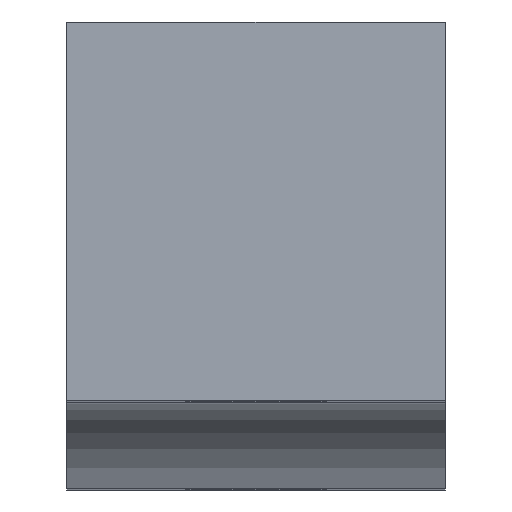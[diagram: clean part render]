
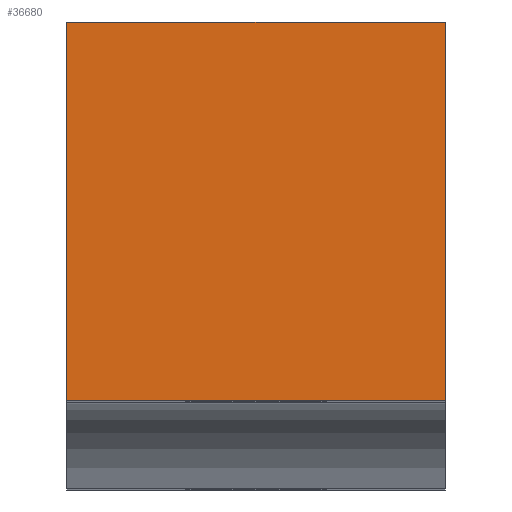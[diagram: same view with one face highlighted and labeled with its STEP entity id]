
A CAD part, top view. The second image highlights one B-rep face of the part: STEP entity #36680.
In plain terms, the highlighted planar face has unit normal (0, 0, 1).
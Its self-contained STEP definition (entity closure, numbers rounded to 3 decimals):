
#347 = CARTESIAN_POINT ( 'NONE',  ( 0., 0., 340. ) ) ;
#613 = EDGE_CURVE ( 'NONE', #36979, #17968, #22856, .T. ) ;
#1017 = ORIENTED_EDGE ( 'NONE', *, *, #20123, .T. ) ;
#1043 = VERTEX_POINT ( 'NONE', #1495 ) ;
#1495 = CARTESIAN_POINT ( 'NONE',  ( 35., -31.181, 340. ) ) ;
#3149 = EDGE_CURVE ( 'NONE', #1043, #31878, #33475, .T. ) ;
#4794 = VECTOR ( 'NONE', #33069, 1000. ) ;
#5144 = CARTESIAN_POINT ( 'NONE',  ( -50.148, -31.181, 340. ) ) ;
#5544 = ORIENTED_EDGE ( 'NONE', *, *, #39091, .T. ) ;
#6487 = EDGE_LOOP ( 'NONE', ( #10045, #5544, #8121, #1017 ) ) ;
#6743 = FACE_OUTER_BOUND ( 'NONE', #6487, .T. ) ;
#8121 = ORIENTED_EDGE ( 'NONE', *, *, #613, .T. ) ;
#10045 = ORIENTED_EDGE ( 'NONE', *, *, #3149, .F. ) ;
#10471 = DIRECTION ( 'NONE',  ( 0., 0., 1. ) ) ;
#11378 = CARTESIAN_POINT ( 'NONE',  ( -35., 38.819, 340. ) ) ;
#13386 = PLANE ( 'NONE',  #27524 ) ;
#15186 = CARTESIAN_POINT ( 'NONE',  ( 35., 0., 340. ) ) ;
#15856 = DIRECTION ( 'NONE',  ( 1., 0., 0. ) ) ;
#17968 = VERTEX_POINT ( 'NONE', #11378 ) ;
#20123 = EDGE_CURVE ( 'NONE', #17968, #31878, #39798, .T. ) ;
#20236 = VECTOR ( 'NONE', #35439, 1000. ) ;
#22561 = LINE ( 'NONE', #15186, #24950 ) ;
#22856 = LINE ( 'NONE', #32329, #20236 ) ;
#24939 = CARTESIAN_POINT ( 'NONE',  ( -35., -31.181, 340. ) ) ;
#24950 = VECTOR ( 'NONE', #28955, 1000. ) ;
#26368 = DIRECTION ( 'NONE',  ( 0., -1., 0. ) ) ;
#26979 = CARTESIAN_POINT ( 'NONE',  ( -35., 0., 340. ) ) ;
#27524 = AXIS2_PLACEMENT_3D ( 'NONE', #347, #10471, #15856 ) ;
#28955 = DIRECTION ( 'NONE',  ( 0., 1., 0. ) ) ;
#31878 = VERTEX_POINT ( 'NONE', #24939 ) ;
#32321 = CARTESIAN_POINT ( 'NONE',  ( 35., 38.819, 340. ) ) ;
#32329 = CARTESIAN_POINT ( 'NONE',  ( -50.252, 38.819, 340. ) ) ;
#33069 = DIRECTION ( 'NONE',  ( -1., 0., 0. ) ) ;
#33475 = LINE ( 'NONE', #5144, #4794 ) ;
#35439 = DIRECTION ( 'NONE',  ( -1., 0., 0. ) ) ;
#36680 = ADVANCED_FACE ( 'NONE', ( #6743 ), #13386, .T. ) ;
#36979 = VERTEX_POINT ( 'NONE', #32321 ) ;
#38448 = VECTOR ( 'NONE', #26368, 1000. ) ;
#39091 = EDGE_CURVE ( 'NONE', #1043, #36979, #22561, .T. ) ;
#39798 = LINE ( 'NONE', #26979, #38448 ) ;
